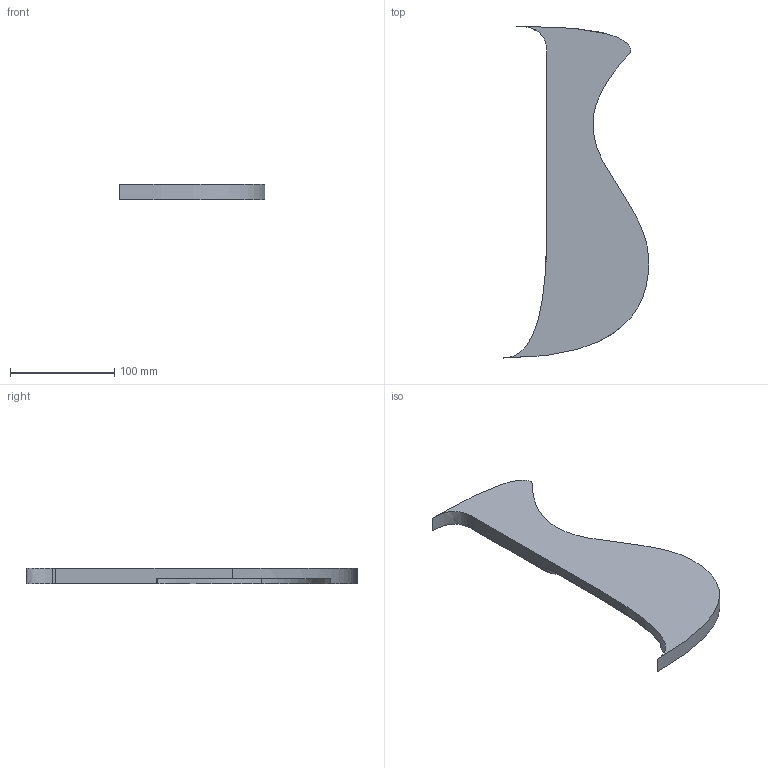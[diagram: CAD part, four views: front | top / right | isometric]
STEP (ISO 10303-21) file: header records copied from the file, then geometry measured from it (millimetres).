
FILE_DESCRIPTION(('FreeCAD Model'),'2;1');
FILE_NAME('Open CASCADE Shape Model','2024-03-17T22:25:29',('Author'),( ''),'Open CASCADE STEP processor 7.6','FreeCAD','Unknown');
FILE_SCHEMA(('AUTOMOTIVE_DESIGN { 1 0 10303 214 1 1 1 1 }'));
Length unit declared in the file: millimetre
Products named in the file (1): TechFull_CNC
Bounding box: 140 x 319.2 x 15 mm (x, y, z)
Volume: 300691.2 mm3; surface area: 59509.8 mm2
Topology: 1 solids, 1 shells, 18 faces, 38 edges, 27 vertices
Faces by surface type: plane 11, extrusion 7
Entity records: 1105 total; most frequent: CARTESIAN_POINT 330, DIRECTION 116, ORIENTED_EDGE 76, PCURVE 76, DEFINITIONAL_REPRESENTATION 76, VECTOR 72, LINE 65, B_SPLINE_CURVE_WITH_KNOTS 41
